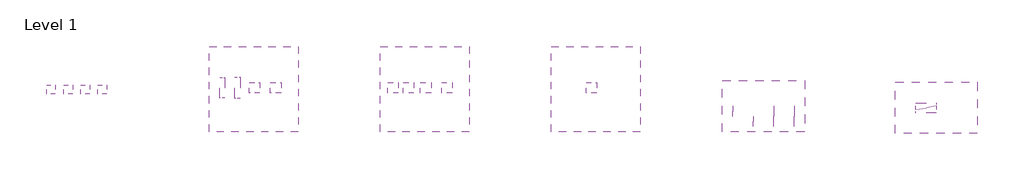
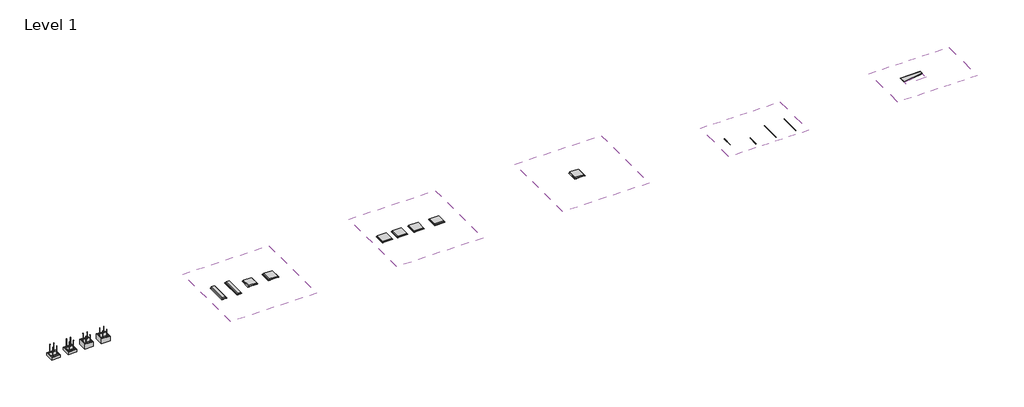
# One storey: 18 light fixtures, 6 coverings.
"""IFC4 building model written with IfcOpenShell, lengths in millimetres."""

from ifc_helpers import new_model, si_unit, frame, origin, place, context, project, spatial, polyline, outline, extrude, transform, mapped, element, save
from components import light_fixture_57ddc7c2, light_fixture_2ed42478, light_fixture_aacdbeec, light_fixture_2ade7a22, light_fixture_98942b3c, light_fixture_3cedea59, light_fixture_300x1200x75_4d3c8f62, light_fixture_312_5x1250x75_8dd1f42e, light_fixture_600x600x75_c0c0ac78, light_fixture_625x625x75_e0756536

model = new_model("IFC4")

# Units and contexts
model_context = context("Model", 3, world=origin())
ifc_project = project(units=[si_unit("LENGTHUNIT", "METRE", prefix="MILLI")], contexts=[model_context])

# Site, building, storey
site = spatial("IfcSite", under=ifc_project)
building = spatial("IfcBuilding", under=site)
storey = spatial("IfcBuildingStorey", under=building, Name="Level 1", Elevation=0.0)

# Coverings
placement = place(None, origin())
element("IfcCovering", 1, ObjectType="OWA Trapeze 4 S15b 600x1200_20", at=placement, inside=storey, context=model_context, shape_type="SweptSolid", body=[
    extrude(outline(polyline([(40112.2416021, 26626.6149871), (44912.2416021, 26626.6149871), (44912.2416021, 23626.6149871), (40112.2416021, 23626.6149871), (40112.2416021, 26626.6149871)]), holes=[polyline([(44319.3916021, 25126.6149871), (44305.0916021, 25126.6149871), (44305.0916021, 23926.6149871), (44319.3916021, 23926.6149871), (44319.3916021, 25126.6149871)]), polyline([(43119.3916021, 25126.6149871), (43105.0916021, 25126.6149871), (43105.0916021, 23926.6149871), (43119.3916021, 23926.6149871), (43119.3916021, 25126.6149871)]), polyline([(41919.3916021, 25126.6149871), (41905.0916021, 25126.6149871), (41905.0916021, 23926.6149871), (41919.3916021, 23926.6149871), (41919.3916021, 25126.6149871)]), polyline([(40719.3916021, 25126.6149871), (40705.0916021, 25126.6149871), (40705.0916021, 24526.6149871), (40719.3916021, 24526.6149871), (40719.3916021, 25126.6149871)])]), frame((0.0, 0.0, 2600.0), z_axis=(0.0, 0.0, 1.0), x_axis=(1.0, 0.0, 0.0)), (0.0, 0.0, 1.0), 38.0),
])
element("IfcCovering", 2, ObjectType="OWA Trapeze 4 S15b 600x1200_20", at=placement, inside=storey, context=model_context, shape_type="SweptSolid", body=[
    extrude(outline(polyline([(50212.2416021, 26526.6149871), (55012.2416021, 26526.6149871), (55012.2416021, 23526.6149871), (50212.2416021, 23526.6149871), (50212.2416021, 26526.6149871)]), holes=[polyline([(51412.2416021, 25326.6149871), (51412.2416021, 24726.6149871), (52612.2416021, 24726.6149871), (52612.2416021, 25326.6149871), (51412.2416021, 25326.6149871)])]), frame((0.0, 0.0, 2600.0), z_axis=(0.0, 0.0, 1.0), x_axis=(1.0, 0.0, 0.0)), (0.0, 0.0, 1.0), 38.0),
])
element("IfcCovering", 3, ObjectType="OWA Trapeze 1 S15b 200/400x1200_20", at=placement, inside=storey, context=model_context, shape_type="SweptSolid", body=[
    extrude(outline(polyline([(52612.2416021, 25126.6149871), (52612.2416021, 24726.6149871), (51412.2416021, 24726.6149871), (51412.2416021, 24926.6149871), (52612.2416021, 25126.6149871)])), frame((0.0, 0.0, 2600.0), z_axis=(0.0, 0.0, 1.0), x_axis=(1.0, 0.0, 0.0)), (0.0, 0.0, 1.0), 43.0),
])
element("IfcCovering", 4, ObjectType="Compound Ceiling", at=placement, inside=storey, context=model_context, shape_type="SweptSolid", body=[
    extrude(outline(polyline([(10112.2416021, 28626.6149871), (15312.2416021, 28626.6149871), (15312.2416021, 23626.6149871), (10112.2416021, 23626.6149871), (10112.2416021, 28626.6149871)]), holes=[polyline([(11018.4916021, 26799.1122379), (10718.4916021, 26799.1122379), (10718.4916021, 25599.1122379), (11018.4916021, 25599.1122379), (11018.4916021, 26799.1122379)]), polyline([(11924.7416021, 26824.1122379), (11612.2416021, 26824.1122379), (11612.2416021, 25574.1122379), (11924.7416021, 25574.1122379), (11924.7416021, 26824.1122379)]), polyline([(13068.4916021, 26499.1122379), (12468.4916021, 26499.1122379), (12468.4916021, 25899.1122379), (13068.4916021, 25899.1122379), (13068.4916021, 26499.1122379)]), polyline([(14320.9916021, 26511.6122379), (13695.9916021, 26511.6122379), (13695.9916021, 25886.6122379), (14320.9916021, 25886.6122379), (14320.9916021, 26511.6122379)])]), frame((0.0, 0.0, 2600.0), z_axis=(0.0, 0.0, 1.0), x_axis=(1.0, 0.0, 0.0)), (0.0, 0.0, 1.0), 18.0),
])
element("IfcCovering", 5, ObjectType="Compound Ceiling", at=placement, inside=storey, context=model_context, shape_type="SweptSolid", body=[
    extrude(outline(polyline([(20112.2416021, 28626.6149871), (25312.2416021, 28626.6149871), (25312.2416021, 23626.6149871), (20112.2416021, 23626.6149871), (20112.2416021, 28626.6149871)]), holes=[polyline([(20555.9916021, 25886.6122379), (21180.9916021, 25886.6122379), (21180.9916021, 26511.6122379), (20555.9916021, 26511.6122379), (20555.9916021, 25886.6122379)]), polyline([(22080.9916021, 26511.6122379), (21455.9916021, 26511.6122379), (21455.9916021, 25886.6122379), (22080.9916021, 25886.6122379), (22080.9916021, 26511.6122379)]), polyline([(23080.9916021, 26511.6122379), (22455.9916021, 26511.6122379), (22455.9916021, 25886.6122379), (23080.9916021, 25886.6122379), (23080.9916021, 26511.6122379)]), polyline([(23695.9916021, 25886.6122379), (24320.9916021, 25886.6122379), (24320.9916021, 26511.6122379), (23695.9916021, 26511.6122379), (23695.9916021, 25886.6122379)])]), frame((0.0, 0.0, 2600.0), z_axis=(0.0, 0.0, 1.0), x_axis=(1.0, 0.0, 0.0)), (0.0, 0.0, 1.0), 18.0),
])
element("IfcCovering", 6, ObjectType="Compound Ceiling", at=placement, inside=storey, context=model_context, shape_type="SweptSolid", body=[
    extrude(outline(polyline([(30112.2416021, 28626.6149871), (35312.2416021, 28626.6149871), (35312.2416021, 23626.6149871), (30112.2416021, 23626.6149871), (30112.2416021, 28626.6149871)]), holes=[polyline([(32760.9916021, 26511.6122379), (32135.9916021, 26511.6122379), (32135.9916021, 25886.6122379), (32760.9916021, 25886.6122379), (32760.9916021, 26511.6122379)])]), frame((0.0, 0.0, 2600.0), z_axis=(0.0, 0.0, 1.0), x_axis=(1.0, 0.0, 0.0)), (0.0, 0.0, 1.0), 18.0),
])

# Light fixtures
light_fixture_shape = light_fixture_57ddc7c2(model_context)
element("IfcLightFixture", 7, ObjectType="OWA Lifetime plus LED : 625x625x75 micro prismatic IP40", at=placement, inside=storey, context=model_context, shape_type="MappedRepresentation", body=[
    mapped(light_fixture_shape, transform((20868.4916021, 26199.1122379, -1400.0), x_axis=(1.0, 0.0, 0.0), y_axis=(0.0, 1.0, 0.0), z_axis=(0.0, 0.0, 1.0))),
])
element("IfcLightFixture", 8, ObjectType="OWA Lifetime plus LED : 625x625x75 micro prismatic IP54", at=placement, inside=storey, context=model_context, shape_type="MappedRepresentation", body=[
    mapped(light_fixture_shape, transform((21768.4916021, 26199.1122379, -1400.0), x_axis=(1.0, 0.0, 0.0), y_axis=(0.0, 1.0, 0.0), z_axis=(0.0, 0.0, 1.0))),
])
light_fixture_2_shape = light_fixture_2ed42478(model_context)
element("IfcLightFixture", 9, ObjectType="OWA Trapeze LED : 400/200x1200x83 Trapeze LED A satin finish", at=placement, inside=storey, context=model_context, shape_type="MappedRepresentation", body=[
    mapped(light_fixture_2_shape, transform((52012.2416021, 25126.6149871, -1400.0), x_axis=(0.0, -1.0, 0.0), y_axis=(1.0, 0.0, 0.0), z_axis=(0.0, 0.0, 1.0))),
])
light_fixture_3_shape = light_fixture_aacdbeec(model_context)
element("IfcLightFixture", 10, ObjectType="OWAlight LED Track : 14.3x600x38 OWAlight 1", at=placement, inside=storey, context=model_context, shape_type="MappedRepresentation", body=[
    mapped(light_fixture_3_shape, transform((40712.2416021, 24826.6149871, -1400.0), x_axis=(1.0, 0.0, 0.0), y_axis=(0.0, 1.0, 0.0), z_axis=(0.0, 0.0, 1.0))),
])
element("IfcLightFixture", 11, ObjectType="OWAlight LED Track : 14.3x1200x38 OWAlight 2", at=placement, inside=storey, context=model_context, shape_type="MappedRepresentation", body=[
    mapped(light_fixture_3_shape, transform((41912.2416021, 24226.6149871, -1400.0), x_axis=(1.0, 0.0, 0.0), y_axis=(0.0, 1.0, 0.0), z_axis=(0.0, 0.0, 1.0))),
])
light_fixture_4_shape = light_fixture_2ade7a22(model_context)
element("IfcLightFixture", 12, ObjectType="OWAlight LED Track : 14.3x1200x38 OWAlight 3", at=placement, inside=storey, context=model_context, shape_type="MappedRepresentation", body=[
    mapped(light_fixture_4_shape, transform((43112.2416021, 24526.6149871, -1400.0), x_axis=(1.0, 0.0, 0.0), y_axis=(0.0, 1.0, 0.0), z_axis=(0.0, 0.0, 1.0))),
])
element("IfcLightFixture", 13, ObjectType="OWAlight LED Track : 14.3x1200x38 OWAlight 3a", at=placement, inside=storey, context=model_context, shape_type="MappedRepresentation", body=[
    mapped(light_fixture_4_shape, transform((44312.2416021, 24526.6149871, -1400.0), x_axis=(1.0, 0.0, 0.0), y_axis=(0.0, 1.0, 0.0), z_axis=(0.0, 0.0, 1.0))),
])
light_fixture_5_shape = light_fixture_98942b3c(model_context)
element("IfcLightFixture", 14, ObjectType="OWA Corpus LED : Corpus Q1 520x520x150", at=placement, inside=storey, context=model_context, shape_type="MappedRepresentation", body=[
    mapped(light_fixture_5_shape, transform((872.2416021, 25661.3355344, 2850.0), x_axis=(0.0, -1.0, 0.0), y_axis=(-1.0, 0.0, 0.0), z_axis=(0.0, 0.0, -1.0))),
])
element("IfcLightFixture", 15, ObjectType="OWA Corpus LED : Corpus Q1 520x520x150 tunable white", at=placement, inside=storey, context=model_context, shape_type="MappedRepresentation", body=[
    mapped(light_fixture_5_shape, transform((1872.2416021, 25661.3355344, 2850.0), x_axis=(0.0, -1.0, 0.0), y_axis=(-1.0, 0.0, 0.0), z_axis=(0.0, 0.0, -1.0))),
])
light_fixture_6_shape = light_fixture_3cedea59(model_context)
element("IfcLightFixture", 16, ObjectType="OWA Corpus LED : Corpus Q2 520x520x300", at=placement, inside=storey, context=model_context, shape_type="MappedRepresentation", body=[
    mapped(light_fixture_6_shape, transform((2872.2416021, 25661.3355344, 2850.0), x_axis=(0.0, -1.0, 0.0), y_axis=(-1.0, 0.0, 0.0), z_axis=(0.0, 0.0, -1.0))),
])
element("IfcLightFixture", 17, ObjectType="OWA Corpus LED : Corpus Q2 520x520x300 tunable white", at=placement, inside=storey, context=model_context, shape_type="MappedRepresentation", body=[
    mapped(light_fixture_6_shape, transform((3872.2416021, 25661.3355344, 2850.0), x_axis=(0.0, -1.0, 0.0), y_axis=(-1.0, 0.0, 0.0), z_axis=(0.0, 0.0, -1.0))),
])
light_fixture_300x1200x75_shape = light_fixture_300x1200x75_4d3c8f62(model_context)
element("IfcLightFixture", 18, ObjectType="OWA Lifetime LED : 300x1200x75", at=placement, inside=storey, context=model_context, shape_type="MappedRepresentation", body=[
    mapped(light_fixture_300x1200x75_shape, transform((10868.4916021, 26199.1122379, -1400.0), x_axis=(1.0, 0.0, 0.0), y_axis=(0.0, 1.0, 0.0), z_axis=(0.0, 0.0, 1.0))),
])
light_fixture_312_5x1250x75_shape = light_fixture_312_5x1250x75_8dd1f42e(model_context)
element("IfcLightFixture", 19, ObjectType="OWA Lifetime LED : 312.5x1250x75", at=placement, inside=storey, context=model_context, shape_type="MappedRepresentation", body=[
    mapped(light_fixture_312_5x1250x75_shape, transform((11768.4916021, 26199.1122379, -1400.0), x_axis=(1.0, 0.0, 0.0), y_axis=(0.0, 1.0, 0.0), z_axis=(0.0, 0.0, 1.0))),
])
light_fixture_600x600x75_shape = light_fixture_600x600x75_c0c0ac78(model_context)
element("IfcLightFixture", 20, ObjectType="OWA Lifetime LED : 600x600x75", at=placement, inside=storey, context=model_context, shape_type="MappedRepresentation", body=[
    mapped(light_fixture_600x600x75_shape, transform((12768.4916021, 26199.1122379, -1400.0), x_axis=(1.0, 0.0, 0.0), y_axis=(0.0, 1.0, 0.0), z_axis=(0.0, 0.0, 1.0))),
])
light_fixture_625x625x75_shape = light_fixture_625x625x75_e0756536(model_context)
element("IfcLightFixture", 21, ObjectType="OWA Lifetime LED : 625x625x75", at=placement, inside=storey, context=model_context, shape_type="MappedRepresentation", body=[
    mapped(light_fixture_625x625x75_shape, transform((14008.4916021, 26199.1122379, -1400.0), x_axis=(1.0, 0.0, 0.0), y_axis=(0.0, 1.0, 0.0), z_axis=(0.0, 0.0, 1.0))),
])
element("IfcLightFixture", 22, ObjectType="OWA Lifetime plus LED : 625x625x75 satin finish IP40", at=placement, inside=storey, context=model_context, shape_type="MappedRepresentation", body=[
    mapped(light_fixture_shape, transform((22768.4916021, 26199.1122379, -1400.0), x_axis=(1.0, 0.0, 0.0), y_axis=(0.0, 1.0, 0.0), z_axis=(0.0, 0.0, 1.0))),
])
element("IfcLightFixture", 23, ObjectType="OWA Lifetime plus LED : 625x625x75 satin finish IP54", at=placement, inside=storey, context=model_context, shape_type="MappedRepresentation", body=[
    mapped(light_fixture_shape, transform((24008.4916021, 26199.1122379, -1400.0), x_axis=(1.0, 0.0, 0.0), y_axis=(0.0, 1.0, 0.0), z_axis=(0.0, 0.0, 1.0))),
])
element("IfcLightFixture", 24, ObjectType="OWA Standard LED : 625x625x75", at=placement, inside=storey, context=model_context, shape_type="MappedRepresentation", body=[
    mapped(light_fixture_625x625x75_shape, transform((32448.4916021, 26199.1122379, -1400.0), x_axis=(1.0, 0.0, 0.0), y_axis=(0.0, 1.0, 0.0), z_axis=(0.0, 0.0, 1.0))),
])

save(model, "model.ifc")
